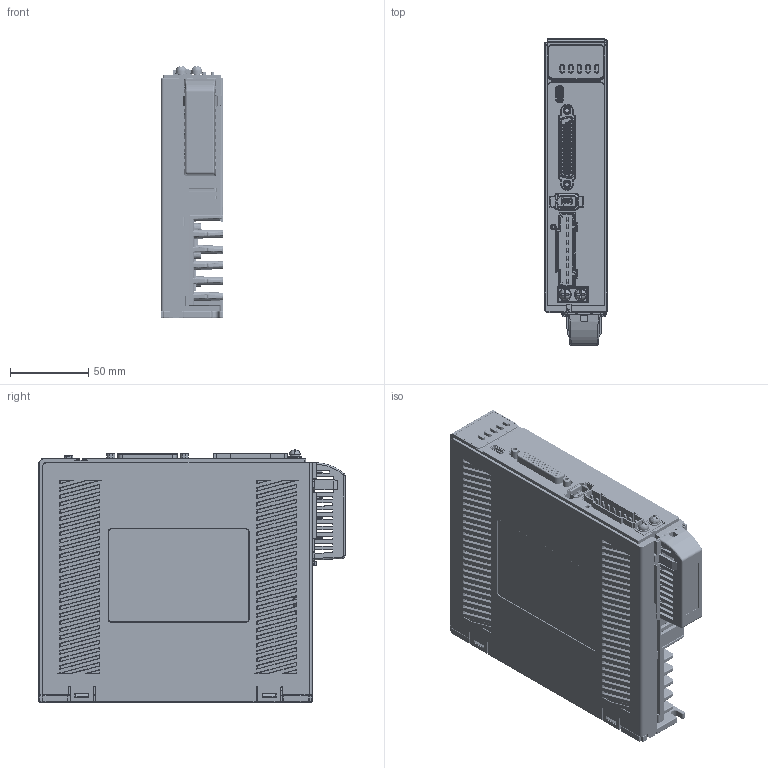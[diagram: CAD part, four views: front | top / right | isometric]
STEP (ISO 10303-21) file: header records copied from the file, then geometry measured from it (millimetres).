
FILE_DESCRIPTION((''),'2;1');
FILE_NAME('L7P_400_ASM','2022-08-17T',('Administrator'),(''),'PRO/ENGINEER BY PARAMETRIC TECHNOLOGY CORPORATION, 2010280','PRO/ENGINEER BY PARAMETRIC TECHNOLOGY CORPORATION, 2010280','');
FILE_SCHEMA(('CONFIG_CONTROL_DESIGN'));
Products named in the file (25): M3X8_GB818_9_1_1_; D3_GB9074_26_11_1_1_; D3_GB9074_24_14_1_1_; M3X8_GB9074_4_ASM_1_ASM_1_ASM__ASM; M4X10_GB818_1_1_1_; D4_GB9074_26_1_1_1_; D4_GB9074_24_1_1_1_; M4X10_GB9074_4_ASM_1_ASM_1_ASM__ASM; PCB_L8L_2_; 9P___1_1_; JDDZ____1_1_; PCB_SMALL_L7__1_; FUS606_REF_1_; C-2-5748482-5-A-3D_1_1_; C-5788516-1-A-3D_Z_1_; C-1932389-1-3-3D__1_; PCB_L8L_ASM_7_ASM__ASM; YKL_1_; AJ_190117_____1_3_; GZ_L7P_400_14_; QWA_3_2_; AWQ1_2_1_; ASS_ASM_2_ASM_3_ASM__ASM; DB_L7_400_2_1_; L7P_400_ASM
Assembly tree (27 placements, depth 3):
  L7P_400_ASM
    M3X8_GB9074_4_ASM_1_ASM_1_ASM__ASM  x3
      M3X8_GB818_9_1_1_
      D3_GB9074_26_11_1_1_
      D3_GB9074_24_14_1_1_
    M4X10_GB9074_4_ASM_1_ASM_1_ASM__ASM  x2
      M4X10_GB818_1_1_1_
      D4_GB9074_26_1_1_1_
      D4_GB9074_24_1_1_1_
    PCB_L8L_ASM_7_ASM__ASM
      PCB_L8L_2_
      9P___1_1_
      JDDZ____1_1_
      PCB_SMALL_L7__1_
      FUS606_REF_1_
      C-2-5748482-5-A-3D_1_1_
      C-5788516-1-A-3D_Z_1_
      C-1932389-1-3-3D__1_
    YKL_1_
    AJ_190117_____1_3_
    GZ_L7P_400_14_
    ASS_ASM_2_ASM_3_ASM__ASM
      QWA_3_2_
      AWQ1_2_1_
    DB_L7_400_2_1_
Bounding box: 40 x 196 x 161.49 mm (x, y, z)
Volume: 389989.7 mm3; surface area: 297631.1 mm2
Topology: 29 solids, 29 shells, 7869 faces, 20736 edges, 12840 vertices
Faces by surface type: plane 4294, cylinder 2431, bspline 368, torus 302, sphere 236, cone 194, extrusion 40, revolution 4
Entity records: 256837 total; most frequent: CARTESIAN_POINT 69510, ORIENTED_EDGE 40260, DIRECTION 36462, EDGE_CURVE 20130, VECTOR 14084, LINE 14044, VERTEX_POINT 12594, AXIS2_PLACEMENT_3D 11187
